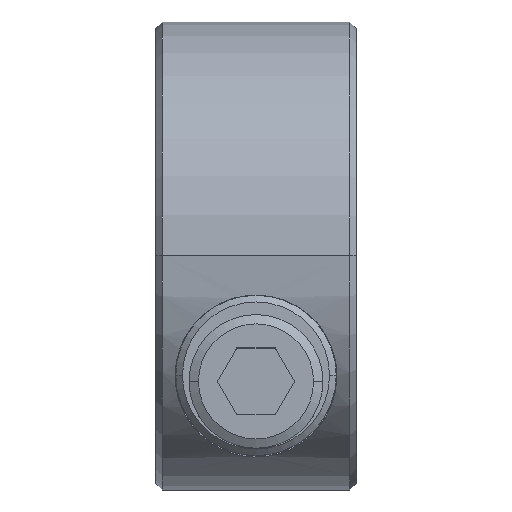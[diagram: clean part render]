
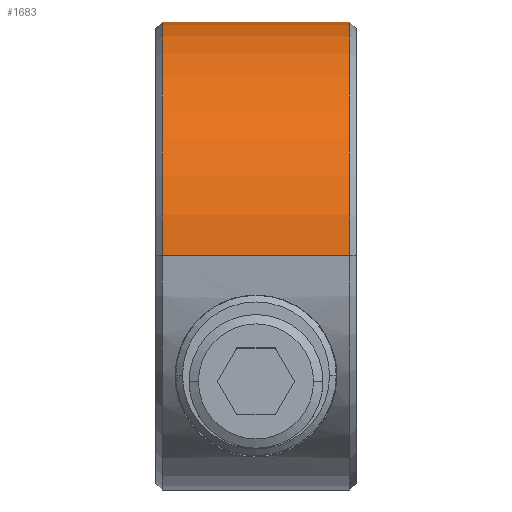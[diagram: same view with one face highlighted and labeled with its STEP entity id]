
A CAD part, top view. The second image highlights one B-rep face of the part: STEP entity #1683.
In plain terms, the highlighted cylindrical face has radius 17.5 mm (diameter 35 mm), a partial arc.
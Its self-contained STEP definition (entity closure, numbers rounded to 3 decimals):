
#68 = DIRECTION ( 'NONE',  ( 0., 0., 1. ) ) ;
#92 = EDGE_CURVE ( 'NONE', #1615, #430, #1141, .T. ) ;
#130 = FACE_OUTER_BOUND ( 'NONE', #1096, .T. ) ;
#146 = CARTESIAN_POINT ( 'NONE',  ( 14.5, 0., 17.5 ) ) ;
#217 = CARTESIAN_POINT ( 'NONE',  ( 14.5, 0., 0. ) ) ;
#349 = CIRCLE ( 'NONE', #1087, 17.5 ) ;
#381 = DIRECTION ( 'NONE',  ( 1., 0., 0. ) ) ;
#430 = VERTEX_POINT ( 'NONE', #827 ) ;
#496 = DIRECTION ( 'NONE',  ( -1., 0., 0. ) ) ;
#559 = ORIENTED_EDGE ( 'NONE', *, *, #1783, .T. ) ;
#624 = CARTESIAN_POINT ( 'NONE',  ( 15., 0., 0. ) ) ;
#636 = CARTESIAN_POINT ( 'NONE',  ( 15., 0., -17.5 ) ) ;
#680 = CARTESIAN_POINT ( 'NONE',  ( 0.5, 0., 0. ) ) ;
#758 = EDGE_CURVE ( 'NONE', #1615, #899, #1786, .T. ) ;
#770 = EDGE_CURVE ( 'NONE', #990, #430, #349, .T. ) ;
#810 = DIRECTION ( 'NONE',  ( -1., 0., 0. ) ) ;
#827 = CARTESIAN_POINT ( 'NONE',  ( 0.5, 0., 17.5 ) ) ;
#899 = VERTEX_POINT ( 'NONE', #1491 ) ;
#958 = DIRECTION ( 'NONE',  ( -1., 0., 0. ) ) ;
#961 = CYLINDRICAL_SURFACE ( 'NONE', #1426, 17.5 ) ;
#990 = VERTEX_POINT ( 'NONE', #1368 ) ;
#998 = VECTOR ( 'NONE', #810, 1000. ) ;
#1021 = ORIENTED_EDGE ( 'NONE', *, *, #770, .T. ) ;
#1087 = AXIS2_PLACEMENT_3D ( 'NONE', #680, #381, #1765 ) ;
#1096 = EDGE_LOOP ( 'NONE', ( #1775, #559, #1021, #1133 ) ) ;
#1104 = DIRECTION ( 'NONE',  ( 0., 0., 1. ) ) ;
#1133 = ORIENTED_EDGE ( 'NONE', *, *, #92, .F. ) ;
#1141 = LINE ( 'NONE', #1904, #998 ) ;
#1304 = DIRECTION ( 'NONE',  ( -1., 0., 0. ) ) ;
#1368 = CARTESIAN_POINT ( 'NONE',  ( 0.5, 0., -17.5 ) ) ;
#1426 = AXIS2_PLACEMENT_3D ( 'NONE', #624, #958, #1104 ) ;
#1491 = CARTESIAN_POINT ( 'NONE',  ( 14.5, 0., -17.5 ) ) ;
#1586 = AXIS2_PLACEMENT_3D ( 'NONE', #217, #1304, #68 ) ;
#1608 = LINE ( 'NONE', #636, #1665 ) ;
#1615 = VERTEX_POINT ( 'NONE', #146 ) ;
#1665 = VECTOR ( 'NONE', #496, 1000. ) ;
#1683 = ADVANCED_FACE ( 'NONE', ( #130 ), #961, .T. ) ;
#1765 = DIRECTION ( 'NONE',  ( 0., 0., 1. ) ) ;
#1775 = ORIENTED_EDGE ( 'NONE', *, *, #758, .T. ) ;
#1783 = EDGE_CURVE ( 'NONE', #899, #990, #1608, .T. ) ;
#1786 = CIRCLE ( 'NONE', #1586, 17.5 ) ;
#1904 = CARTESIAN_POINT ( 'NONE',  ( 15., 0., 17.5 ) ) ;
